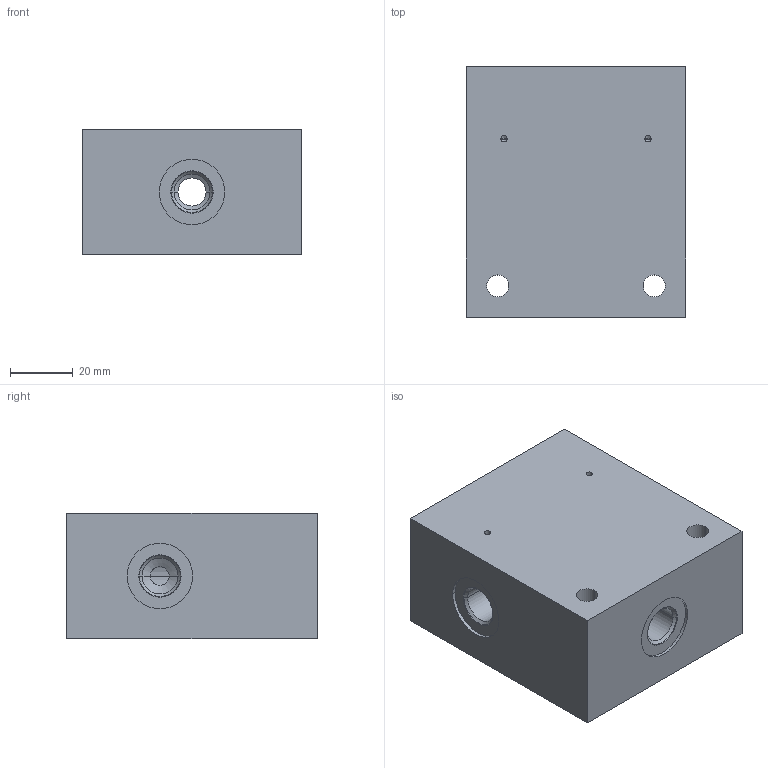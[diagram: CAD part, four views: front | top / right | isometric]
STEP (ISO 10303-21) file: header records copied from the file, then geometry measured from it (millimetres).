
FILE_DESCRIPTION((''),'2;1');
FILE_NAME('20786001','2023-10-11T',('l.soukupova'),(''),'PRO/ENGINEER BY PARAMETRIC TECHNOLOGY CORPORATION, 2015440','PRO/ENGINEER BY PARAMETRIC TECHNOLOGY CORPORATION, 2015440','');
FILE_SCHEMA(('AUTOMOTIVE_DESIGN { 1 0 10303 214 1 1 1 1 }'));
Length unit declared in the file: millimetre
Products named in the file (1): 20786001
Bounding box: 70 x 80 x 40 mm (x, y, z)
Volume: 200041.9 mm3; surface area: 33221.7 mm2
Topology: 1 solids, 6 shells, 100 faces, 311 edges, 251 vertices
Faces by surface type: cylinder 52, cone 32, plane 16
Entity records: 4145 total; most frequent: CARTESIAN_POINT 990, DIRECTION 635, ORIENTED_EDGE 430, AXIS2_PLACEMENT_3D 230, EDGE_CURVE 225, VECTOR 175, LINE 175, VERTEX_POINT 136
